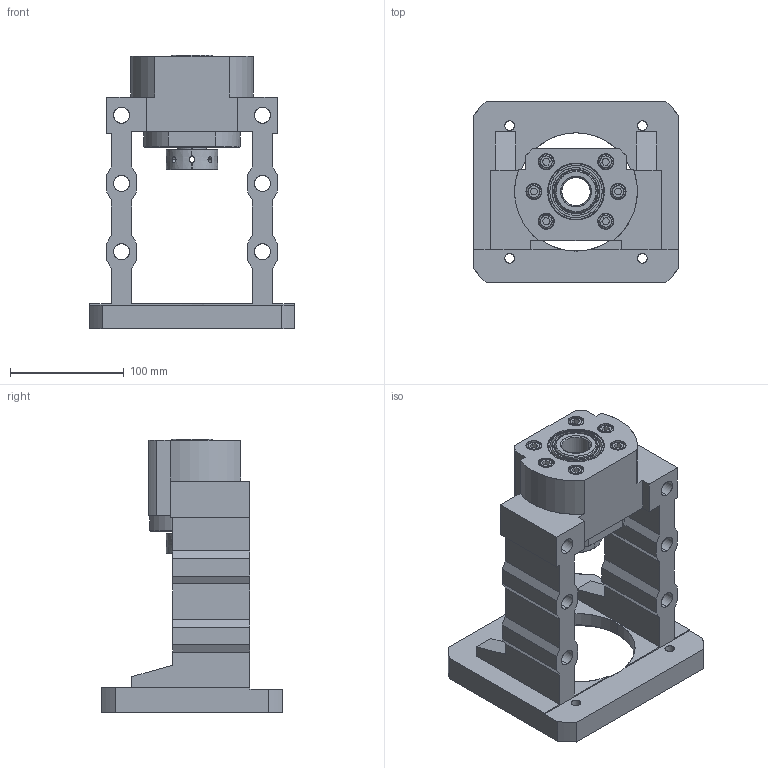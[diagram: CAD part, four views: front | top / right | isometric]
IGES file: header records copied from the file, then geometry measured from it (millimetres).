
Start section: SolidWorks IGES file using analytic representation for surfaces
Bounding box: 180 x 160 x 241 mm (x, y, z)
Surface area: 211550.8 mm2 (no closed solid volume)
Topology: 0 solids, 0 shells, 325 faces, 5698 edges, 5690 vertices
Faces by surface type: revolution 166, bspline 159
